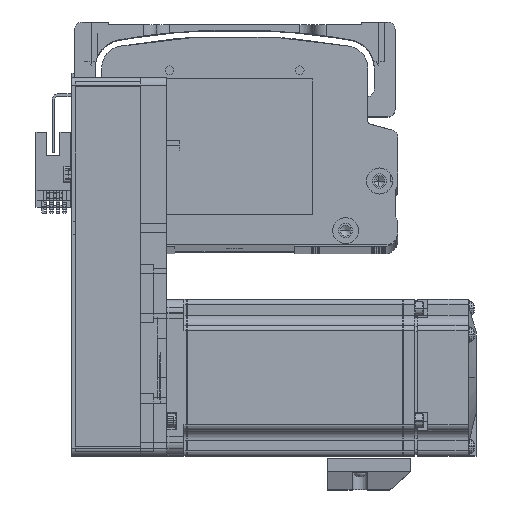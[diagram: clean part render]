
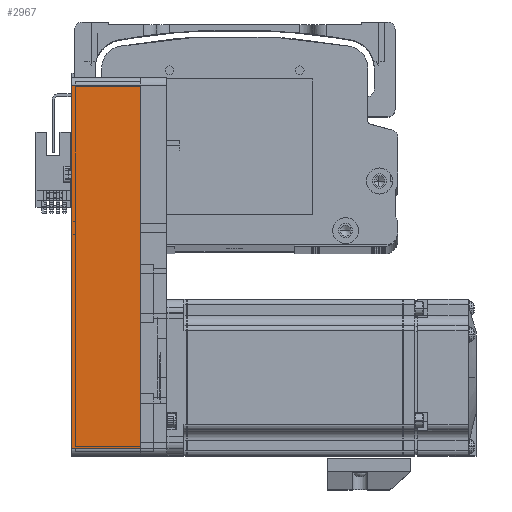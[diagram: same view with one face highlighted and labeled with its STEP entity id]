
A CAD part, top view. The second image highlights one B-rep face of the part: STEP entity #2967.
In plain terms, the highlighted planar face has unit normal (0, 0, 1) as drawn and (0, 1, 0) by its records, which use the part's own axes.
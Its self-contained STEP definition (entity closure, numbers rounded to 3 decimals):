
#1661 = VECTOR ( 'NONE', #42888, 1000. ) ;
#2967 = ADVANCED_FACE ( 'NONE', ( #52291 ), #9666, .F. ) ;
#3068 = CARTESIAN_POINT ( 'NONE',  ( 72.5, 30., 26.5 ) ) ;
#4050 = EDGE_CURVE ( 'NONE', #45117, #41662, #36028, .T. ) ;
#9666 = PLANE ( 'NONE',  #57964 ) ;
#9974 = DIRECTION ( 'NONE',  ( 1., 0., 0. ) ) ;
#12731 = CARTESIAN_POINT ( 'NONE',  ( 69.5, 30., 0. ) ) ;
#12884 = CARTESIAN_POINT ( 'NONE',  ( 69.5, 30., 26.5 ) ) ;
#17185 = CARTESIAN_POINT ( 'NONE',  ( 72.5, 30., 26.5 ) ) ;
#19112 = LINE ( 'NONE', #28877, #53489 ) ;
#19268 = EDGE_CURVE ( 'NONE', #75119, #45117, #66114, .T. ) ;
#21912 = CARTESIAN_POINT ( 'NONE',  ( -69.5, 30., 0. ) ) ;
#22435 = CARTESIAN_POINT ( 'NONE',  ( -69.5, 30., 26.5 ) ) ;
#27844 = EDGE_LOOP ( 'NONE', ( #44367, #37062, #57810, #28519 ) ) ;
#28519 = ORIENTED_EDGE ( 'NONE', *, *, #32780, .T. ) ;
#28877 = CARTESIAN_POINT ( 'NONE',  ( 69.5, 30., 26.5 ) ) ;
#32780 = EDGE_CURVE ( 'NONE', #47204, #75119, #19112, .T. ) ;
#35657 = CARTESIAN_POINT ( 'NONE',  ( 72.5, 30., 0. ) ) ;
#35795 = DIRECTION ( 'NONE',  ( 0., 0., -1. ) ) ;
#36028 = LINE ( 'NONE', #22435, #1661 ) ;
#37062 = ORIENTED_EDGE ( 'NONE', *, *, #4050, .T. ) ;
#41662 = VERTEX_POINT ( 'NONE', #71662 ) ;
#42888 = DIRECTION ( 'NONE',  ( 0., 0., 1. ) ) ;
#44367 = ORIENTED_EDGE ( 'NONE', *, *, #19268, .T. ) ;
#45117 = VERTEX_POINT ( 'NONE', #21912 ) ;
#47204 = VERTEX_POINT ( 'NONE', #12884 ) ;
#47860 = VECTOR ( 'NONE', #57226, 1000. ) ;
#51075 = DIRECTION ( 'NONE',  ( 0., -1., 0. ) ) ;
#52291 = FACE_OUTER_BOUND ( 'NONE', #27844, .T. ) ;
#53489 = VECTOR ( 'NONE', #35795, 1000. ) ;
#57226 = DIRECTION ( 'NONE',  ( -1., 0., 0. ) ) ;
#57580 = VECTOR ( 'NONE', #85965, 1000. ) ;
#57810 = ORIENTED_EDGE ( 'NONE', *, *, #65217, .F. ) ;
#57964 = AXIS2_PLACEMENT_3D ( 'NONE', #3068, #51075, #9974 ) ;
#65217 = EDGE_CURVE ( 'NONE', #47204, #41662, #75917, .T. ) ;
#66114 = LINE ( 'NONE', #35657, #47860 ) ;
#71662 = CARTESIAN_POINT ( 'NONE',  ( -69.5, 30., 26.5 ) ) ;
#75119 = VERTEX_POINT ( 'NONE', #12731 ) ;
#75917 = LINE ( 'NONE', #17185, #57580 ) ;
#85965 = DIRECTION ( 'NONE',  ( -1., 0., 0. ) ) ;
